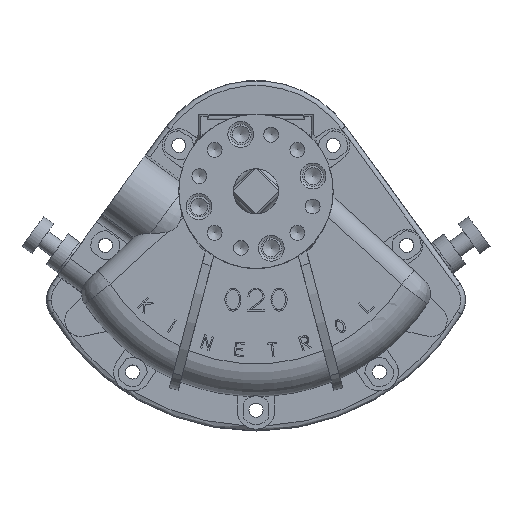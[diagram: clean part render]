
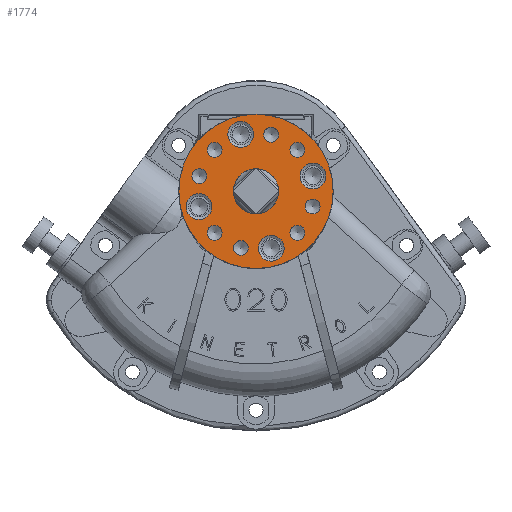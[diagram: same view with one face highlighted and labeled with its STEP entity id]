
A CAD part, top view. The second image highlights one B-rep face of the part: STEP entity #1774.
In plain terms, the highlighted planar face has unit normal (0, 0, 1).
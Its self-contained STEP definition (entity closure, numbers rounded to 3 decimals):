
#1774 = ADVANCED_FACE( '', ( #3900, #3901, #3902, #3903, #3904, #3905, #3906, #3907, #3908, #3909, #3910, #3911, #3912, #3913 ), #3914, .T. );
#3900 = FACE_BOUND( '', #6601, .T. );
#3901 = FACE_BOUND( '', #6602, .T. );
#3902 = FACE_BOUND( '', #6603, .T. );
#3903 = FACE_BOUND( '', #6604, .T. );
#3904 = FACE_BOUND( '', #6605, .T. );
#3905 = FACE_BOUND( '', #6606, .T. );
#3906 = FACE_BOUND( '', #6607, .T. );
#3907 = FACE_BOUND( '', #6608, .T. );
#3908 = FACE_BOUND( '', #6609, .T. );
#3909 = FACE_BOUND( '', #6610, .T. );
#3910 = FACE_BOUND( '', #6611, .T. );
#3911 = FACE_BOUND( '', #6612, .T. );
#3912 = FACE_OUTER_BOUND( '', #6613, .T. );
#3913 = FACE_BOUND( '', #6614, .T. );
#3914 = PLANE( '', #6615 );
#6601 = EDGE_LOOP( '', ( #11945 ) );
#6602 = EDGE_LOOP( '', ( #11946 ) );
#6603 = EDGE_LOOP( '', ( #11947 ) );
#6604 = EDGE_LOOP( '', ( #11948 ) );
#6605 = EDGE_LOOP( '', ( #11949 ) );
#6606 = EDGE_LOOP( '', ( #11950 ) );
#6607 = EDGE_LOOP( '', ( #11951 ) );
#6608 = EDGE_LOOP( '', ( #11952 ) );
#6609 = EDGE_LOOP( '', ( #11953 ) );
#6610 = EDGE_LOOP( '', ( #11954 ) );
#6611 = EDGE_LOOP( '', ( #11955 ) );
#6612 = EDGE_LOOP( '', ( #11956 ) );
#6613 = EDGE_LOOP( '', ( #11957 ) );
#6614 = EDGE_LOOP( '', ( #11958, #11959 ) );
#6615 = AXIS2_PLACEMENT_3D( '', #11960, #11961, #11962 );
#11945 = ORIENTED_EDGE( '', *, *, #15229, .T. );
#11946 = ORIENTED_EDGE( '', *, *, #14065, .T. );
#11947 = ORIENTED_EDGE( '', *, *, #16179, .T. );
#11948 = ORIENTED_EDGE( '', *, *, #14101, .T. );
#11949 = ORIENTED_EDGE( '', *, *, #15416, .T. );
#11950 = ORIENTED_EDGE( '', *, *, #15311, .T. );
#11951 = ORIENTED_EDGE( '', *, *, #14456, .T. );
#11952 = ORIENTED_EDGE( '', *, *, #15168, .T. );
#11953 = ORIENTED_EDGE( '', *, *, #15847, .T. );
#11954 = ORIENTED_EDGE( '', *, *, #16180, .T. );
#11955 = ORIENTED_EDGE( '', *, *, #15018, .T. );
#11956 = ORIENTED_EDGE( '', *, *, #15387, .T. );
#11957 = ORIENTED_EDGE( '', *, *, #16181, .F. );
#11958 = ORIENTED_EDGE( '', *, *, #16182, .F. );
#11959 = ORIENTED_EDGE( '', *, *, #14187, .F. );
#11960 = CARTESIAN_POINT( '', ( -14.674, -14.674, 25.1 ) );
#11961 = DIRECTION( '', ( 0., 0., 1. ) );
#11962 = DIRECTION( '', ( 1., 0., 0. ) );
#14065 = EDGE_CURVE( '', #16722, #16722, #16723, .T. );
#14101 = EDGE_CURVE( '', #16783, #16783, #16784, .T. );
#14187 = EDGE_CURVE( '', #16938, #16940, #16941, .F. );
#14456 = EDGE_CURVE( '', #17429, #17429, #17430, .T. );
#15018 = EDGE_CURVE( '', #18342, #18342, #18343, .T. );
#15168 = EDGE_CURVE( '', #18574, #18574, #18575, .T. );
#15229 = EDGE_CURVE( '', #18673, #18673, #18674, .T. );
#15311 = EDGE_CURVE( '', #18791, #18791, #18792, .T. );
#15387 = EDGE_CURVE( '', #18900, #18900, #18901, .T. );
#15416 = EDGE_CURVE( '', #18943, #18943, #18944, .T. );
#15847 = EDGE_CURVE( '', #19547, #19547, #19548, .T. );
#16179 = EDGE_CURVE( '', #19969, #19969, #19970, .T. );
#16180 = EDGE_CURVE( '', #19971, #19971, #19972, .T. );
#16181 = EDGE_CURVE( '', #19973, #19973, #19974, .T. );
#16182 = EDGE_CURVE( '', #16940, #16938, #19975, .F. );
#16722 = VERTEX_POINT( '', #20596 );
#16723 = CIRCLE( '', #20597, 1.621 );
#16783 = VERTEX_POINT( '', #20695 );
#16784 = CIRCLE( '', #20696, 1.621 );
#16938 = VERTEX_POINT( '', #20952 );
#16940 = VERTEX_POINT( '', #20955 );
#16941 = CIRCLE( '', #20956, 4.875 );
#17429 = VERTEX_POINT( '', #21776 );
#17430 = CIRCLE( '', #21777, 1.621 );
#18342 = VERTEX_POINT( '', #23344 );
#18343 = CIRCLE( '', #23345, 1.621 );
#18574 = VERTEX_POINT( '', #23673 );
#18575 = CIRCLE( '', #23674, 1.621 );
#18673 = VERTEX_POINT( '', #23795 );
#18674 = CIRCLE( '', #23796, 1.621 );
#18791 = VERTEX_POINT( '', #24045 );
#18792 = CIRCLE( '', #24046, 2.8 );
#18900 = VERTEX_POINT( '', #24252 );
#18901 = CIRCLE( '', #24253, 2.8 );
#18943 = VERTEX_POINT( '', #24308 );
#18944 = CIRCLE( '', #24309, 1.621 );
#19547 = VERTEX_POINT( '', #25369 );
#19548 = CIRCLE( '', #25370, 2.8 );
#19969 = VERTEX_POINT( '', #26083 );
#19970 = CIRCLE( '', #26084, 2.8 );
#19971 = VERTEX_POINT( '', #26085 );
#19972 = CIRCLE( '', #26086, 1.621 );
#19973 = VERTEX_POINT( '', #26087 );
#19974 = CIRCLE( '', #26088, 16.75 );
#19975 = CIRCLE( '', #26089, 4.875 );
#20596 = CARTESIAN_POINT( '', ( -9., 7.379, 25.1 ) );
#20597 = AXIS2_PLACEMENT_3D( '', #26818, #26819, #26820 );
#20695 = CARTESIAN_POINT( '', ( -3.295, -13.917, 25.1 ) );
#20696 = AXIS2_PLACEMENT_3D( '', #26858, #26859, #26860 );
#20952 = CARTESIAN_POINT( '', ( 3.447, 3.447, 25.1 ) );
#20955 = CARTESIAN_POINT( '', ( -3.447, -3.447, 25.1 ) );
#20956 = AXIS2_PLACEMENT_3D( '', #26982, #26983, #26984 );
#21776 = CARTESIAN_POINT( '', ( 12.296, -4.916, 25.1 ) );
#21777 = AXIS2_PLACEMENT_3D( '', #27382, #27383, #27384 );
#23344 = CARTESIAN_POINT( '', ( 9., 7.379, 25.1 ) );
#23345 = AXIS2_PLACEMENT_3D( '', #28081, #28082, #28083 );
#23673 = CARTESIAN_POINT( '', ( 9., -10.621, 25.1 ) );
#23674 = AXIS2_PLACEMENT_3D( '', #28301, #28302, #28303 );
#23795 = CARTESIAN_POINT( '', ( -12.296, 1.674, 25.1 ) );
#23796 = AXIS2_PLACEMENT_3D( '', #28399, #28400, #28401 );
#24045 = CARTESIAN_POINT( '', ( 3.313, -15.164, 25.1 ) );
#24046 = AXIS2_PLACEMENT_3D( '', #28496, #28497, #28498 );
#24252 = CARTESIAN_POINT( '', ( -3.313, 9.564, 25.1 ) );
#24253 = AXIS2_PLACEMENT_3D( '', #28587, #28588, #28589 );
#24308 = CARTESIAN_POINT( '', ( -9., -10.621, 25.1 ) );
#24309 = AXIS2_PLACEMENT_3D( '', #28630, #28631, #28632 );
#25369 = CARTESIAN_POINT( '', ( 12.364, 0.513, 25.1 ) );
#25370 = AXIS2_PLACEMENT_3D( '', #29164, #29165, #29166 );
#26083 = CARTESIAN_POINT( '', ( -12.364, -6.113, 25.1 ) );
#26084 = AXIS2_PLACEMENT_3D( '', #29543, #29544, #29545 );
#26085 = CARTESIAN_POINT( '', ( 3.295, 10.675, 25.1 ) );
#26086 = AXIS2_PLACEMENT_3D( '', #29546, #29547, #29548 );
#26087 = CARTESIAN_POINT( '', ( 16.75, 0., 25.1 ) );
#26088 = AXIS2_PLACEMENT_3D( '', #29549, #29550, #29551 );
#26089 = AXIS2_PLACEMENT_3D( '', #29552, #29553, #29554 );
#26818 = CARTESIAN_POINT( '', ( -9., 9., 25.1 ) );
#26819 = DIRECTION( '', ( 0., 0., -1. ) );
#26820 = DIRECTION( '', ( 0., -1., 0. ) );
#26858 = CARTESIAN_POINT( '', ( -3.295, -12.296, 25.1 ) );
#26859 = DIRECTION( '', ( 0., 0., -1. ) );
#26860 = DIRECTION( '', ( 0., -1., 0. ) );
#26982 = CARTESIAN_POINT( '', ( 0., 0., 25.1 ) );
#26983 = DIRECTION( '', ( 0., 0., -1. ) );
#26984 = DIRECTION( '', ( -1., 0., 0. ) );
#27382 = CARTESIAN_POINT( '', ( 12.296, -3.295, 25.1 ) );
#27383 = DIRECTION( '', ( 0., 0., -1. ) );
#27384 = DIRECTION( '', ( 0., -1., 0. ) );
#28081 = CARTESIAN_POINT( '', ( 9., 9., 25.1 ) );
#28082 = DIRECTION( '', ( 0., 0., -1. ) );
#28083 = DIRECTION( '', ( 0., -1., 0. ) );
#28301 = CARTESIAN_POINT( '', ( 9., -9., 25.1 ) );
#28302 = DIRECTION( '', ( 0., 0., -1. ) );
#28303 = DIRECTION( '', ( 0., -1., 0. ) );
#28399 = CARTESIAN_POINT( '', ( -12.296, 3.295, 25.1 ) );
#28400 = DIRECTION( '', ( 0., 0., -1. ) );
#28401 = DIRECTION( '', ( 0., -1., 0. ) );
#28496 = CARTESIAN_POINT( '', ( 3.313, -12.364, 25.1 ) );
#28497 = DIRECTION( '', ( 0., 0., -1. ) );
#28498 = DIRECTION( '', ( 0., -1., 0. ) );
#28587 = CARTESIAN_POINT( '', ( -3.313, 12.364, 25.1 ) );
#28588 = DIRECTION( '', ( 0., 0., -1. ) );
#28589 = DIRECTION( '', ( 0., -1., 0. ) );
#28630 = CARTESIAN_POINT( '', ( -9., -9., 25.1 ) );
#28631 = DIRECTION( '', ( 0., 0., -1. ) );
#28632 = DIRECTION( '', ( 0., -1., 0. ) );
#29164 = CARTESIAN_POINT( '', ( 12.364, 3.313, 25.1 ) );
#29165 = DIRECTION( '', ( 0., 0., -1. ) );
#29166 = DIRECTION( '', ( 0., -1., 0. ) );
#29543 = CARTESIAN_POINT( '', ( -12.364, -3.313, 25.1 ) );
#29544 = DIRECTION( '', ( 0., 0., -1. ) );
#29545 = DIRECTION( '', ( 0., -1., 0. ) );
#29546 = CARTESIAN_POINT( '', ( 3.295, 12.296, 25.1 ) );
#29547 = DIRECTION( '', ( 0., 0., -1. ) );
#29548 = DIRECTION( '', ( 0., -1., 0. ) );
#29549 = CARTESIAN_POINT( '', ( 0., 0., 25.1 ) );
#29550 = DIRECTION( '', ( 0., 0., -1. ) );
#29551 = DIRECTION( '', ( 1., 0., 0. ) );
#29552 = CARTESIAN_POINT( '', ( 0., 0., 25.1 ) );
#29553 = DIRECTION( '', ( 0., 0., -1. ) );
#29554 = DIRECTION( '', ( -1., 0., 0. ) );
